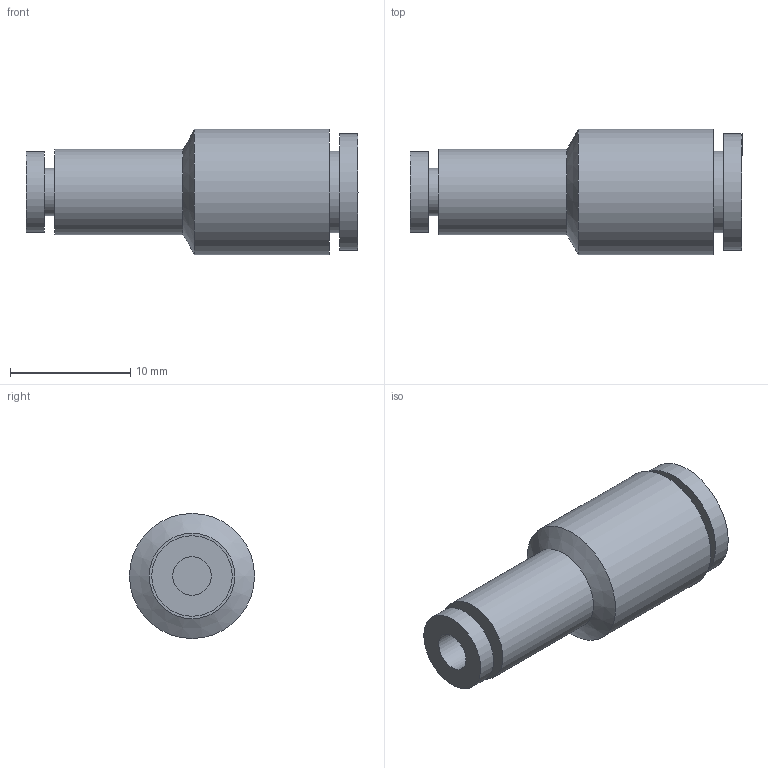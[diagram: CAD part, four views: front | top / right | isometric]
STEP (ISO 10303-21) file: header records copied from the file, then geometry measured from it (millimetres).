
FILE_DESCRIPTION(/* description */ ('STEP AP214'),/* implementation_level */ '2;1');
FILE_NAME(/* name */ 'KQ2H23-06A',/* time_stamp */ '2023-03-09T07:23:20+01:00',/* author */ ('License CC BY-ND 4.0'),/* organization */ ('CADENAS'),/* preprocessor_version */ 'ST-DEVELOPER v18.102',/* originating_system */ 'PARTsolutions',/* authorisation */ ' ');
FILE_SCHEMA (('AUTOMOTIVE_DESIGN {1 0 10303 214 3 1 1}'));
Length unit declared in the file: millimetre
Products named in the file (1): KQ2H23-06A
Bounding box: 27.6 x 10.4 x 10.4 mm (x, y, z)
Volume: 1155.4 mm3; surface area: 1393.6 mm2
Topology: 1 solids, 1 shells, 17 faces, 25 edges, 16 vertices
Faces by surface type: plane 8, cylinder 8, cone 1
Full cylindrical faces by diameter (mm): 3.2 x1, 3.95 x1, 6 x1, 6.7 x1, 6.8 x1, 7.1 x1, 9.7 x1, 10.4 x1
Entity records: 364 total; most frequent: DIRECTION 68, CARTESIAN_POINT 50, AXIS2_PLACEMENT_3D 34, ORIENTED_EDGE 32, EDGE_LOOP 32, FACE_BOUND 32, ADVANCED_FACE 17, EDGE_CURVE 16
